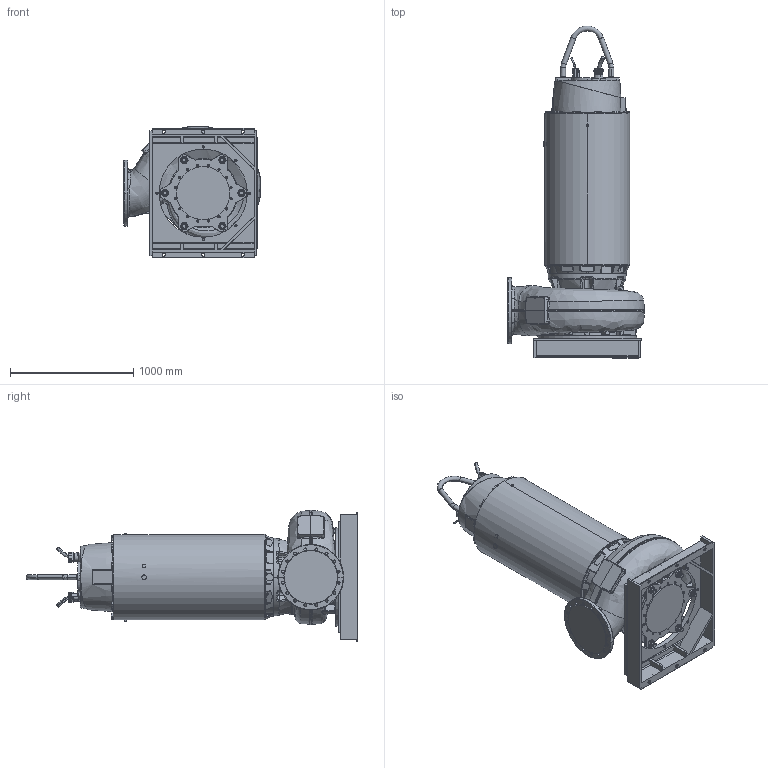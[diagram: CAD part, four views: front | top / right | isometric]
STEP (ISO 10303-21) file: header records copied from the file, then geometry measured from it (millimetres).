
FILE_DESCRIPTION (( 'STEP AP214' ), '1' );
FILE_NAME ('PE6_XFP356M-CB2_DRY_C_NG2.STEP', '2017-03-22T11:57:45', ( '' ), ( '' ), 'SwSTEP 2.0', 'SolidWorks 2017', '' );
FILE_SCHEMA (( 'AUTOMOTIVE_DESIGN' ));
Length unit declared in the file: millimetre
Products named in the file (1): PE6_XFP356M-CB2_DRY_C_NG2
Bounding box: 1118.35 x 2691 x 1068.89 mm (x, y, z)
Volume: 854619042.2 mm3; surface area: 10020138.9 mm2
Topology: 3 solids, 34 shells, 3894 faces, 9616 edges, 5700 vertices
Faces by surface type: plane 1096, bspline 881, cylinder 845, cone 560, torus 382, sphere 130
Entity records: 239024 total; most frequent: CARTESIAN_POINT 111738, ORIENTED_EDGE 18832, DIRECTION 16056, EDGE_CURVE 9416, AXIS2_PLACEMENT_3D 6399, VERTEX_POINT 5700, EDGE_LOOP 4172, UNCERTAINTY_MEASURE_WITH_UNIT 3899
